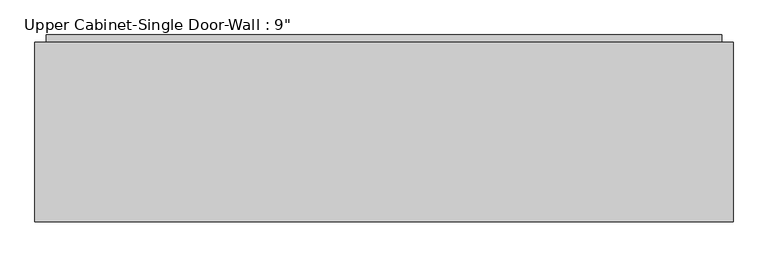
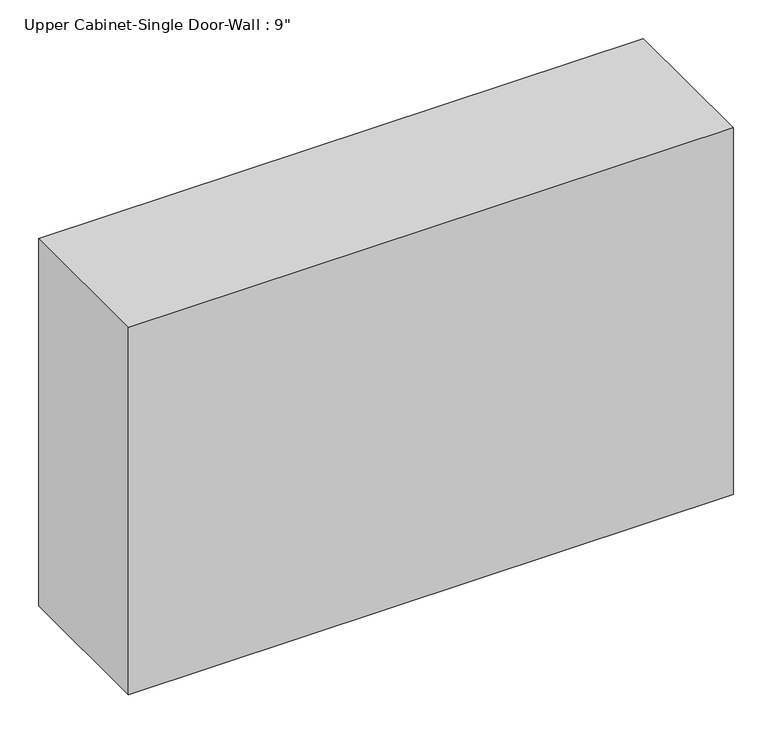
"""IFC4 building model written with IfcOpenShell, lengths in millimetres: furniture geometry."""

from ifc_helpers import new_model, si_unit, frame, origin, place, context, project, spatial, polyline, outline, extrude, faceted_brep, source, transform, mapped, element, save


def furniture_355480a0(model_context):
    return source(origin(), model_context, "Body", "SolidModel", [
        faceted_brep([(-928.7503268, 88.9, 2133.6), (-928.7503268, 88.9, 1371.6), (258.3711628, 88.9, 1371.6), (258.3711628, 88.9, 2133.6), (-928.7503268, 393.7, 2133.6), (258.3711628, 393.7, 2133.6), (258.3711628, 393.7, 1371.6), (-928.7503268, 393.7, 1371.6), (-909.7003268, 393.7, 2114.55), (-909.7003268, 393.7, 1390.65), (239.3211628, 393.7, 1390.65), (239.3211628, 393.7, 2114.55), (239.3211628, 107.95, 2114.55), (-909.7003268, 107.95, 2114.55), (239.3211628, 107.95, 1390.65), (-909.7003268, 107.95, 1390.65)], [[[0, 1, 2, 3]], [[4, 5, 6, 7], [8, 9, 10, 11]], [[1, 0, 4, 7]], [[2, 1, 7, 6]], [[3, 2, 6, 5]], [[0, 3, 5, 4]], [[8, 11, 12, 13]], [[11, 10, 14, 12]], [[10, 9, 15, 14]], [[9, 8, 13, 15]], [[13, 12, 14, 15]]]),
        extrude(outline(polyline([(-909.7003268, 406.4), (239.3211628, 406.4), (239.3211628, 374.65), (-909.7003268, 374.65), (-909.7003268, 406.4)])), frame((0.0, 0.0, 1390.65), z_axis=(0.0, 0.0, 1.0), x_axis=(1.0, 0.0, 0.0)), (0.0, 0.0, 1.0), 723.9),
    ])


if __name__ == "__main__":
    model = new_model("IFC4")
    model_context = context("Model", 3, world=origin())
    ifc_project = project(units=[si_unit("LENGTHUNIT", "METRE", prefix="MILLI")], contexts=[model_context])
    site = spatial("IfcSite", under=ifc_project)
    building = spatial("IfcBuilding", under=site)
    placement = place(None, origin())
    furniture_shape = furniture_355480a0(model_context)
    element("IfcFurniture", 1, ObjectType="Upper Cabinet-Single Door-Wall : 9\"", at=placement, inside=building, context=model_context, shape_type="MappedRepresentation", body=[
        mapped(furniture_shape, transform((0.0, 0.0, 0.0), x_axis=(1.0, 0.0, 0.0), y_axis=(0.0, 1.0, 0.0), z_axis=(0.0, 0.0, 1.0))),
    ])
    save(model, "model.ifc")
